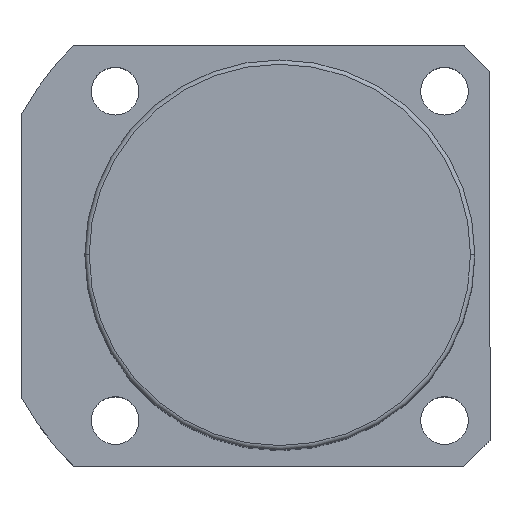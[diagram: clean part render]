
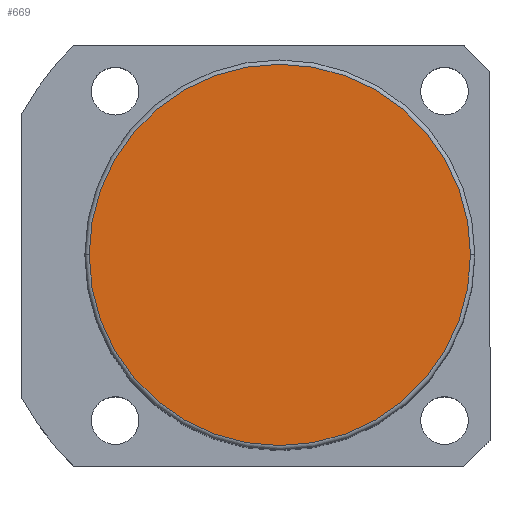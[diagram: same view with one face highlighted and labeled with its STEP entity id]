
A CAD part, top view. The second image highlights one B-rep face of the part: STEP entity #669.
In plain terms, the highlighted planar face has unit normal (0, 0, 1).
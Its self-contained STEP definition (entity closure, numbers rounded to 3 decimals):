
#130 = AXIS2_PLACEMENT_3D ( 'NONE', #2221, #1228, #1724 ) ;
#146 = EDGE_CURVE ( 'NONE', #384, #798, #182, .T. ) ;
#177 = ORIENTED_EDGE ( 'NONE', *, *, #146, .T. ) ;
#182 = CIRCLE ( 'NONE', #2008, 44. ) ;
#384 = VERTEX_POINT ( 'NONE', #1113 ) ;
#470 = DIRECTION ( 'NONE',  ( 1., 0., 0. ) ) ;
#558 = AXIS2_PLACEMENT_3D ( 'NONE', #1284, #1641, #576 ) ;
#576 = DIRECTION ( 'NONE',  ( 1., 0., 0. ) ) ;
#649 = FACE_OUTER_BOUND ( 'NONE', #1884, .T. ) ;
#669 = ADVANCED_FACE ( 'NONE', ( #649 ), #1019, .T. ) ;
#798 = VERTEX_POINT ( 'NONE', #1248 ) ;
#872 = CIRCLE ( 'NONE', #558, 44. ) ;
#1019 = PLANE ( 'NONE',  #130 ) ;
#1074 = ORIENTED_EDGE ( 'NONE', *, *, #1254, .T. ) ;
#1113 = CARTESIAN_POINT ( 'NONE',  ( 44., 0., 141.5 ) ) ;
#1152 = CARTESIAN_POINT ( 'NONE',  ( 0., 0., 141.5 ) ) ;
#1228 = DIRECTION ( 'NONE',  ( 0., 0., 1. ) ) ;
#1248 = CARTESIAN_POINT ( 'NONE',  ( -44., 0., 141.5 ) ) ;
#1254 = EDGE_CURVE ( 'NONE', #798, #384, #872, .T. ) ;
#1284 = CARTESIAN_POINT ( 'NONE',  ( 0., 0., 141.5 ) ) ;
#1641 = DIRECTION ( 'NONE',  ( 0., 0., 1. ) ) ;
#1724 = DIRECTION ( 'NONE',  ( 1., 0., 0. ) ) ;
#1816 = DIRECTION ( 'NONE',  ( 0., 0., 1. ) ) ;
#1884 = EDGE_LOOP ( 'NONE', ( #177, #1074 ) ) ;
#2008 = AXIS2_PLACEMENT_3D ( 'NONE', #1152, #1816, #470 ) ;
#2221 = CARTESIAN_POINT ( 'NONE',  ( 0., 0., 141.5 ) ) ;
